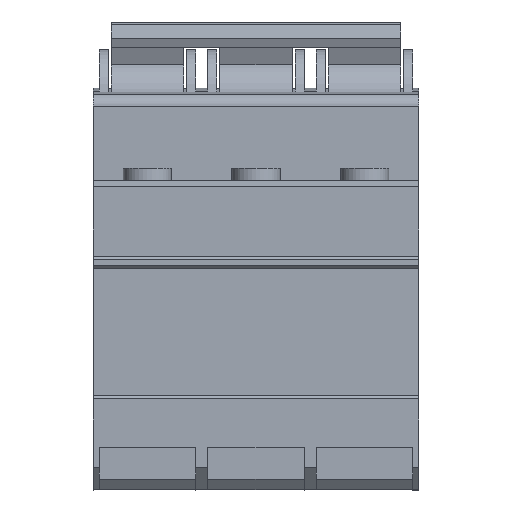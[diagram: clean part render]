
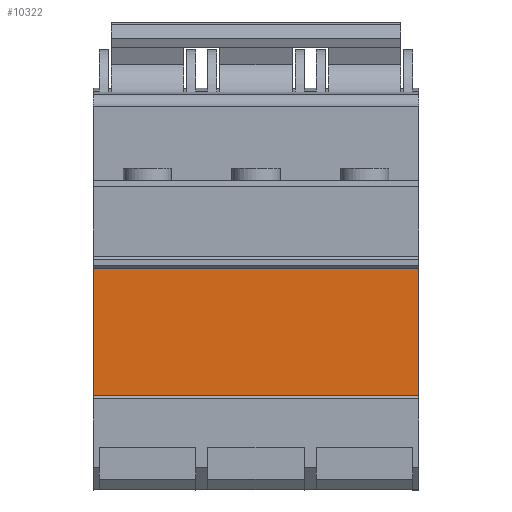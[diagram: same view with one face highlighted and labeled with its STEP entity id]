
A CAD part, front view. The second image highlights one B-rep face of the part: STEP entity #10322.
In plain terms, the highlighted planar face has unit normal (0, -1, 0).
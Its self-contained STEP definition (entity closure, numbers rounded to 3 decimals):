
#514=LINE('',#17710,#1336);
#584=LINE('',#17893,#1406);
#633=LINE('',#18067,#1455);
#634=LINE('',#18069,#1456);
#1336=VECTOR('',#12729,10.);
#1406=VECTOR('',#12889,10.);
#1455=VECTOR('',#13088,10.);
#1456=VECTOR('',#13091,10.);
#2711=FACE_OUTER_BOUND('',#3452,.T.);
#3452=EDGE_LOOP('',(#8180,#8181,#8182,#8183));
#4746=VERTEX_POINT('',#17707);
#4747=VERTEX_POINT('',#17709);
#4814=VERTEX_POINT('',#17890);
#4815=VERTEX_POINT('',#17892);
#5925=EDGE_CURVE('',#4746,#4747,#514,.T.);
#6013=EDGE_CURVE('',#4815,#4814,#584,.T.);
#6094=EDGE_CURVE('',#4814,#4747,#633,.T.);
#6095=EDGE_CURVE('',#4815,#4746,#634,.T.);
#8180=ORIENTED_EDGE('',*,*,#6013,.T.);
#8181=ORIENTED_EDGE('',*,*,#6094,.T.);
#8182=ORIENTED_EDGE('',*,*,#5925,.F.);
#8183=ORIENTED_EDGE('',*,*,#6095,.F.);
#9737=PLANE('',#11179);
#10322=ADVANCED_FACE('',(#2711),#9737,.T.);
#11179=AXIS2_PLACEMENT_3D('',#18068,#13089,#13090);
#12729=DIRECTION('',(0.,0.,-1.));
#12889=DIRECTION('',(0.,0.,-1.));
#13088=DIRECTION('',(1.,0.,0.));
#13089=DIRECTION('center_axis',(0.,-1.,0.));
#13090=DIRECTION('ref_axis',(0.,0.,-1.));
#13091=DIRECTION('',(1.,0.,0.));
#17707=CARTESIAN_POINT('',(54.,-36.074,-3.815));
#17709=CARTESIAN_POINT('',(54.,-36.074,-24.923));
#17710=CARTESIAN_POINT('',(54.,-36.074,-3.815));
#17890=CARTESIAN_POINT('',(0.,-36.074,-24.923));
#17892=CARTESIAN_POINT('',(0.,-36.074,-3.815));
#17893=CARTESIAN_POINT('',(0.,-36.074,-3.815));
#18067=CARTESIAN_POINT('',(0.,-36.074,-24.923));
#18068=CARTESIAN_POINT('Origin',(0.,-36.074,-3.815));
#18069=CARTESIAN_POINT('',(0.,-36.074,-3.815));
